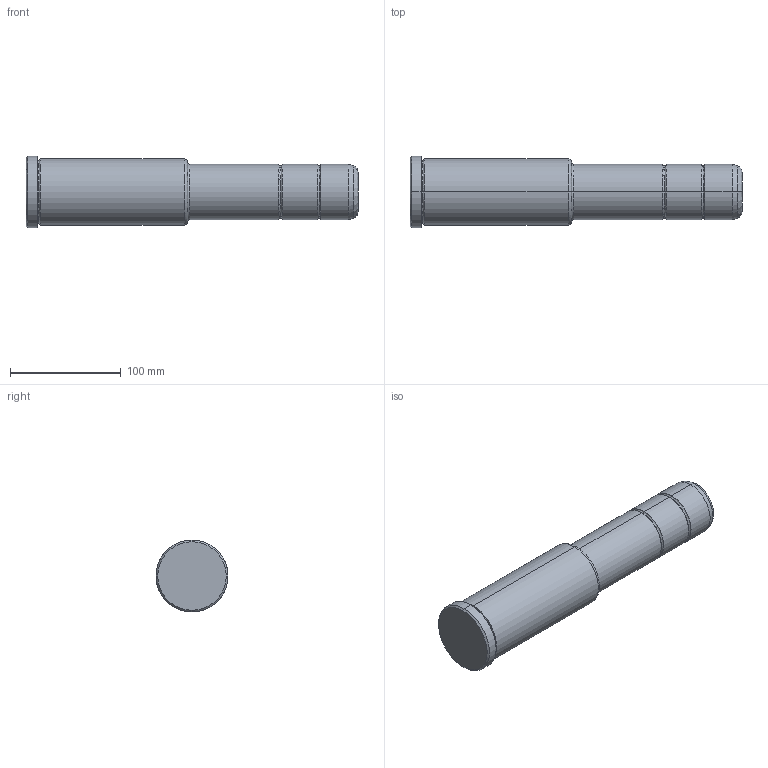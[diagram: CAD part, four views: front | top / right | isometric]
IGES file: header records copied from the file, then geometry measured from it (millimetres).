
Start section: START RECORD GO HERE.
Global section: file name: 351-50X146X300.igs; native system: DASSAULT SYSTEMES CATIA V5 R20 - www.3ds.com; preprocessor: CATIA Version 5 Release 20 ; author: Utente; organization: NB04-ASUS; date: 20211103.202044; units: millimetre
Bounding box: 300 x 65 x 65 mm (x, y, z)
Surface area: 58134.5 mm2 (no closed solid volume)
Topology: 0 solids, 0 shells, 35 faces, 196 edges, 196 vertices
Faces by surface type: revolution 32, plane 3
